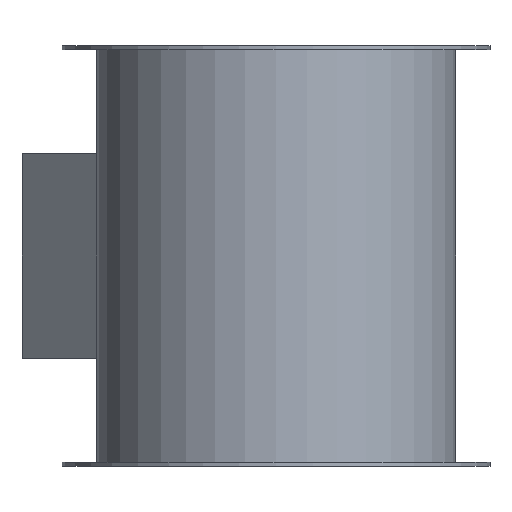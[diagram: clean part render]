
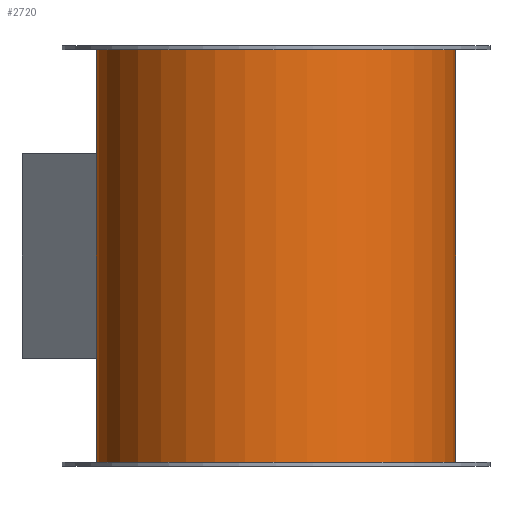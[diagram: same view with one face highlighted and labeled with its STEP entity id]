
A CAD part, front view. The second image highlights one B-rep face of the part: STEP entity #2720.
In plain terms, the highlighted cylindrical face has radius 128 mm (diameter 256 mm), a full revolution.
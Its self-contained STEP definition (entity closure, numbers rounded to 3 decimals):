
#112=FACE_BOUND('',#729,.T.);
#113=FACE_BOUND('',#730,.T.);
#169=CYLINDRICAL_SURFACE('',#2907,128.);
#200=LINE('',#3925,#330);
#201=LINE('',#3928,#331);
#330=VECTOR('',#3165,10.);
#331=VECTOR('',#3168,10.);
#558=FACE_OUTER_BOUND('',#728,.T.);
#728=EDGE_LOOP('',(#1886));
#729=EDGE_LOOP('',(#1887,#1888,#1889,#1890));
#730=EDGE_LOOP('',(#1891));
#899=CIRCLE('',#2859,128.);
#900=CIRCLE('',#2864,128.);
#927=CIRCLE('',#2908,128.);
#928=CIRCLE('',#2909,128.);
#1126=VERTEX_POINT('',#3908);
#1129=VERTEX_POINT('',#3913);
#1132=VERTEX_POINT('',#3923);
#1133=VERTEX_POINT('',#3927);
#1169=VERTEX_POINT('',#4223);
#1170=VERTEX_POINT('',#4225);
#1419=EDGE_CURVE('',#1126,#1129,#899,.T.);
#1424=EDGE_CURVE('',#1129,#1132,#200,.T.);
#1425=EDGE_CURVE('',#1133,#1126,#201,.T.);
#1427=EDGE_CURVE('',#1132,#1133,#900,.T.);
#1463=EDGE_CURVE('',#1169,#1169,#927,.F.);
#1464=EDGE_CURVE('',#1170,#1170,#928,.T.);
#1886=ORIENTED_EDGE('',*,*,#1463,.T.);
#1887=ORIENTED_EDGE('',*,*,#1419,.T.);
#1888=ORIENTED_EDGE('',*,*,#1424,.T.);
#1889=ORIENTED_EDGE('',*,*,#1427,.T.);
#1890=ORIENTED_EDGE('',*,*,#1425,.T.);
#1891=ORIENTED_EDGE('',*,*,#1464,.T.);
#2720=ADVANCED_FACE('',(#558,#112,#113),#169,.T.);
#2859=AXIS2_PLACEMENT_3D('',#3915,#3155,#3156);
#2864=AXIS2_PLACEMENT_3D('',#3931,#3172,#3173);
#2907=AXIS2_PLACEMENT_3D('',#4222,#3258,#3259);
#2908=AXIS2_PLACEMENT_3D('',#4224,#3260,#3261);
#2909=AXIS2_PLACEMENT_3D('',#4226,#3262,#3263);
#3155=DIRECTION('center_axis',(0.,0.,-1.));
#3156=DIRECTION('ref_axis',(-1.,0.,0.));
#3165=DIRECTION('',(0.,0.,1.));
#3168=DIRECTION('',(0.,0.,-1.));
#3172=DIRECTION('center_axis',(0.,0.,1.));
#3173=DIRECTION('ref_axis',(-1.,0.,0.));
#3258=DIRECTION('center_axis',(0.,0.,1.));
#3259=DIRECTION('ref_axis',(-1.,0.,0.));
#3260=DIRECTION('center_axis',(0.,0.,-1.));
#3261=DIRECTION('ref_axis',(-1.,0.,0.));
#3262=DIRECTION('center_axis',(0.,0.,-1.));
#3263=DIRECTION('ref_axis',(-1.,0.,0.));
#3908=CARTESIAN_POINT('',(-120.619,42.837,-73.));
#3913=CARTESIAN_POINT('',(-42.837,120.619,-73.));
#3915=CARTESIAN_POINT('Origin',(0.,0.,-73.));
#3923=CARTESIAN_POINT('',(-42.837,120.619,73.));
#3925=CARTESIAN_POINT('',(-42.837,120.619,0.));
#3927=CARTESIAN_POINT('',(-120.619,42.837,73.));
#3928=CARTESIAN_POINT('',(-120.619,42.837,0.));
#3931=CARTESIAN_POINT('Origin',(0.,0.,73.));
#4222=CARTESIAN_POINT('Origin',(0.,0.,0.));
#4223=CARTESIAN_POINT('',(128.,0.,-147.));
#4224=CARTESIAN_POINT('Origin',(0.,0.,-147.));
#4225=CARTESIAN_POINT('',(128.,0.,147.));
#4226=CARTESIAN_POINT('Origin',(0.,0.,147.));
